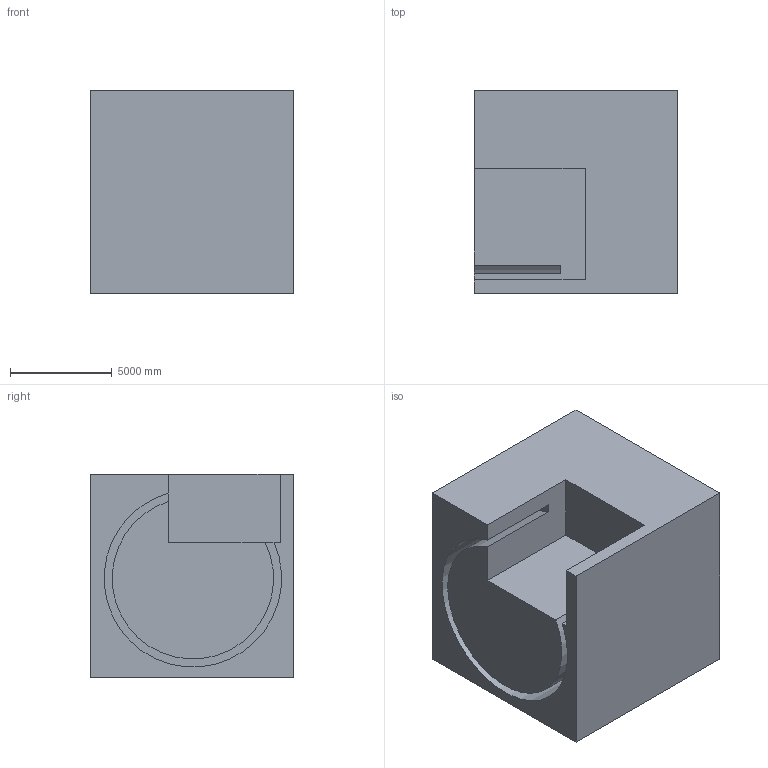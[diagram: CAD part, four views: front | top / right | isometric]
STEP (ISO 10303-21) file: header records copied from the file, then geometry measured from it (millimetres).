
FILE_DESCRIPTION (( 'STEP AP203' ), '1' );
FILE_NAME ('204.STEP', '2022-09-07T12:16:57', ( 'user' ), ( '' ), 'SwSTEP 2.0', 'SolidWorks 2021', '' );
FILE_SCHEMA (( 'CONFIG_CONTROL_DESIGN' ));
Length unit declared in the file: centimetre
Products named in the file (1): 204
Bounding box: 10000 x 10000 x 10000 mm (x, y, z)
Volume: 865779499055.8 mm3; surface area: 805140530.7 mm2
Topology: 1 solids, 1 shells, 14 faces, 36 edges, 24 vertices
Faces by surface type: plane 12, cylinder 2
Entity records: 501 total; most frequent: CARTESIAN_POINT 75, ORIENTED_EDGE 72, DIRECTION 70, EDGE_CURVE 36, LINE 32, VECTOR 32, VERTEX_POINT 24, AXIS2_PLACEMENT_3D 19
